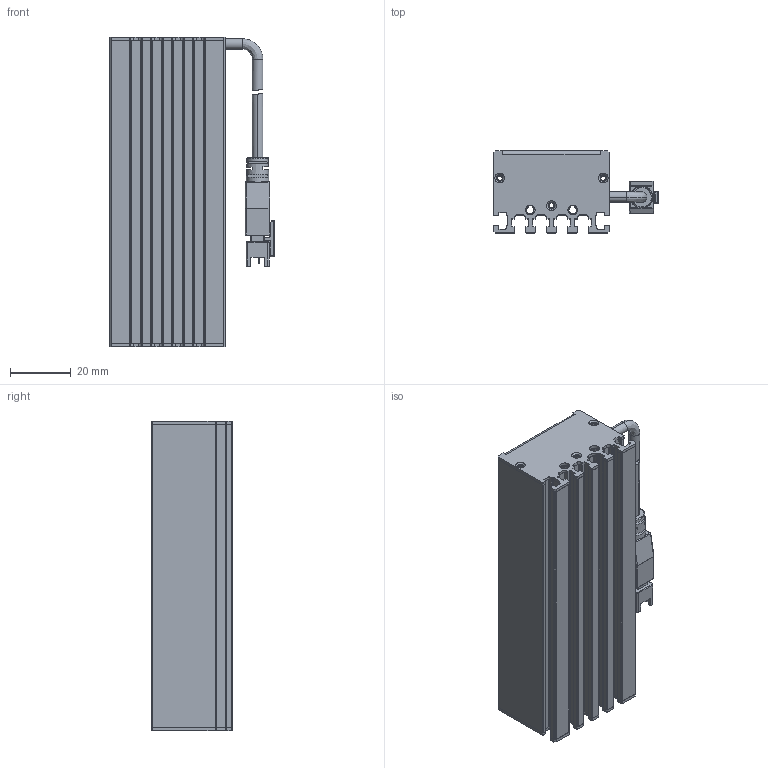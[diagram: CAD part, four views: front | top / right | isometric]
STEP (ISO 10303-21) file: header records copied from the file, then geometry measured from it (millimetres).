
FILE_DESCRIPTION (( 'STEP AP203' ), '1' );
FILE_NAME ('LBD-102L-潠眢3D芞.STEP', '2021-06-16T07:28:39', ( 'Windows 蚚誧' ), ( 'Organization' ), 'SwSTEP 2.0', 'SolidWorks 2018', '' );
FILE_SCHEMA (( 'CONFIG_CONTROL_DESIGN' ));
Length unit declared in the file: millimetre
Products named in the file (1): LBD-102L-潠眢3D芞
Bounding box: 54.16 x 27 x 102 mm (x, y, z)
Surface area: 44765.4 mm2 (no closed solid volume)
Topology: 0 solids, 8 shells, 889 faces, 2541 edges, 1653 vertices
Faces by surface type: plane 458, cylinder 369, cone 28, bspline 28, torus 6
Entity records: 29635 total; most frequent: CARTESIAN_POINT 5977, ORIENTED_EDGE 5003, DIRECTION 4968, EDGE_CURVE 2525, VECTOR 1676, LINE 1676, VERTEX_POINT 1653, AXIS2_PLACEMENT_3D 1646
